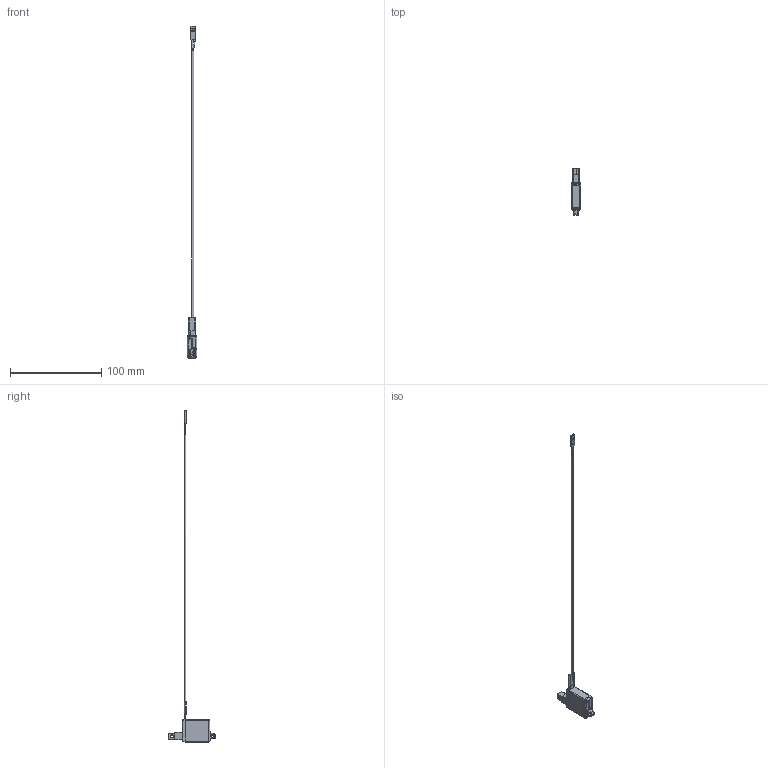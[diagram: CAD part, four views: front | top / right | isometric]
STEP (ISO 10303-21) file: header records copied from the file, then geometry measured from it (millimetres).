
FILE_DESCRIPTION((''),'2;1');
FILE_NAME('P8-10MM_ASM','2021-01-21T',('princ'),(''),'PRO/ENGINEER BY PARAMETRIC TECHNOLOGY CORPORATION, 2004440','PRO/ENGINEER BY PARAMETRIC TECHNOLOGY CORPORATION, 2004440','');
FILE_SCHEMA(('CONFIG_CONTROL_DESIGN'));
Products named in the file (3): P8_10MM_BODY; P8_10MM_SHAFT; P8-10MM_ASM
Assembly tree (2 placements, depth 2):
  P8-10MM_ASM
    P8_10MM_BODY
    P8_10MM_SHAFT
Bounding box: 10.6 x 51.3 x 362.97 mm (x, y, z)
Surface area: 11120 mm2 (no closed solid volume)
Topology: 0 solids, 56 shells, 418 faces, 1940 edges, 1562 vertices
Faces by surface type: cylinder 192, plane 139, bspline 46, torus 30, cone 11
Entity records: 46042 total; most frequent: CARTESIAN_POINT 31423, ORIENTED_EDGE 2710, DIRECTION 2666, EDGE_CURVE 1940, VERTEX_POINT 1562, VECTOR 1218, LINE 1218, AXIS2_PLACEMENT_3D 724
